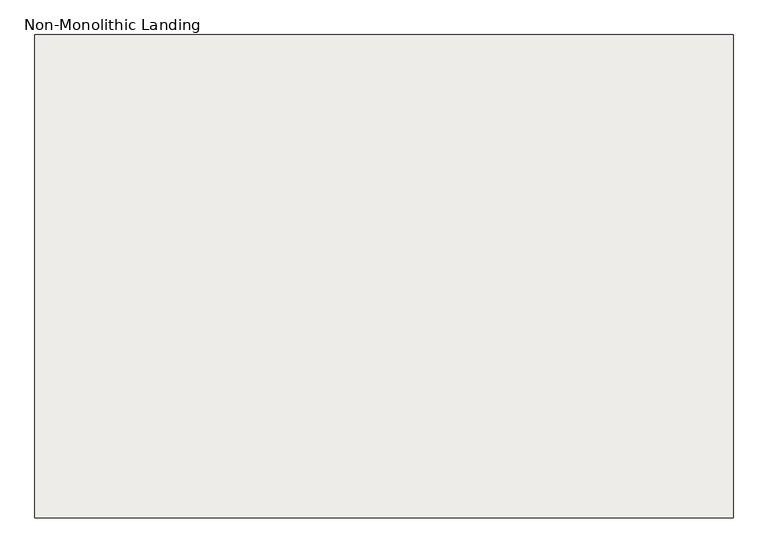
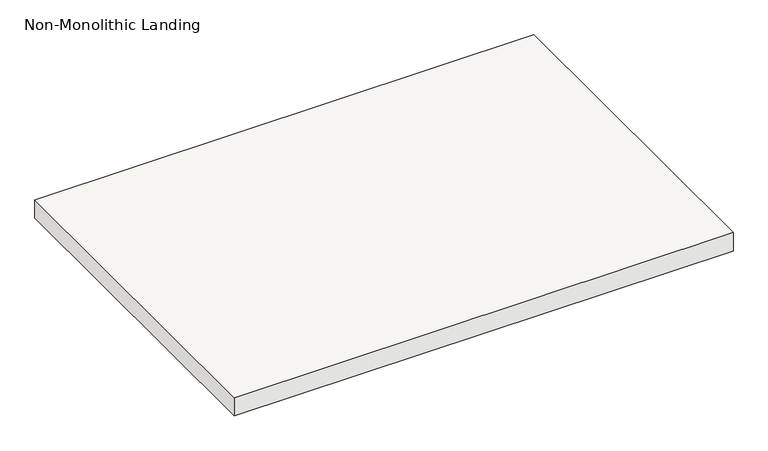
"""IFC4 building model written with IfcOpenShell, lengths in millimetres: slab geometry, Non-Monolithic Landing."""

from ifc_helpers import new_model, si_unit, frame, origin, place, context, project, spatial, polyline, outline, extrude, source, transform, mapped, element, save


def non_monolithic_landing_a7db1183(model_context):
    return source(origin(), model_context, "Body", "SweptSolid", [
        extrude(outline(polyline([(136956.2474271, -1477.5711813), (138277.0474271, -1477.5711813), (138277.0474271, -2391.9711813), (136956.2474271, -2391.9711813), (136956.2474271, -1477.5711813)])), frame((0.0, 0.0, 2126.3428571), z_axis=(0.0, 0.0, 1.0), x_axis=(1.0, 0.0, 0.0)), (0.0, 0.0, 1.0), 50.8),
    ])


if __name__ == "__main__":
    model = new_model("IFC4")
    model_context = context("Model", 3, world=origin())
    ifc_project = project(units=[si_unit("LENGTHUNIT", "METRE", prefix="MILLI")], contexts=[model_context])
    site = spatial("IfcSite", under=ifc_project)
    building = spatial("IfcBuilding", under=site)
    placement = place(None, origin())
    non_monolithic_landing_shape = non_monolithic_landing_a7db1183(model_context)
    element("IfcSlab", 1, ObjectType="Non-Monolithic Landing", at=placement, inside=building, context=model_context, shape_type="MappedRepresentation", body=[
        mapped(non_monolithic_landing_shape, transform((0.0, 0.0, 0.0), x_axis=(1.0, 0.0, 0.0), y_axis=(0.0, 1.0, 0.0), z_axis=(0.0, 0.0, 1.0))),
    ])
    save(model, "model.ifc")
